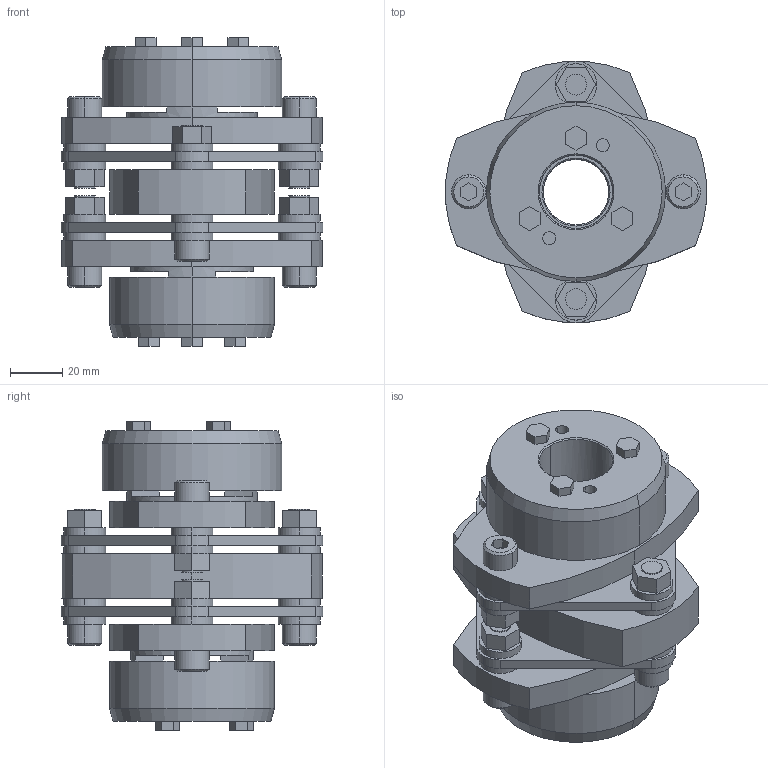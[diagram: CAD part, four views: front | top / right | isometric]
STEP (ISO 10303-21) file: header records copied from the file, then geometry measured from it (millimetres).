
FILE_DESCRIPTION((''),'2;1');
FILE_NAME('LCD-100T7-25×28.stp','2015-11-02T07:26:17',(''),(''),'AutoCAD STEP 2000i','AutoCAD 2000i',', , ');
FILE_SCHEMA(('CONFIG_CONTROL_DESIGN'));
Length unit declared in the file: millimetre
Products named in the file (8): LCD-100T7-25×28; 忣兜1; LC100T7-T028-1; LC100T7-T025-1; LC100T7-T025; LC100T7-T022-1; LC100T7-T022; LCD100-ITA
Assembly tree (7 placements, depth 2):
  LCD-100T7-25×28
    忣兜1
    LC100T7-T028-1
    LC100T7-T025-1
    LC100T7-T025
    LC100T7-T022-1
    LC100T7-T022
    LCD100-ITA
Bounding box: 100 x 99.93 x 118 mm (x, y, z)
Volume: 356939.7 mm3; surface area: 90394.5 mm2
Topology: 1 solids, 1 shells, 320 faces, 780 edges, 512 vertices
Faces by surface type: plane 176, cylinder 120, cone 24
Entity records: 9677 total; most frequent: DIRECTION 1716, CARTESIAN_POINT 1620, ORIENTED_EDGE 1560, EDGE_CURVE 780, AXIS2_PLACEMENT_3D 608, VERTEX_POINT 512, VECTOR 500, LINE 500
